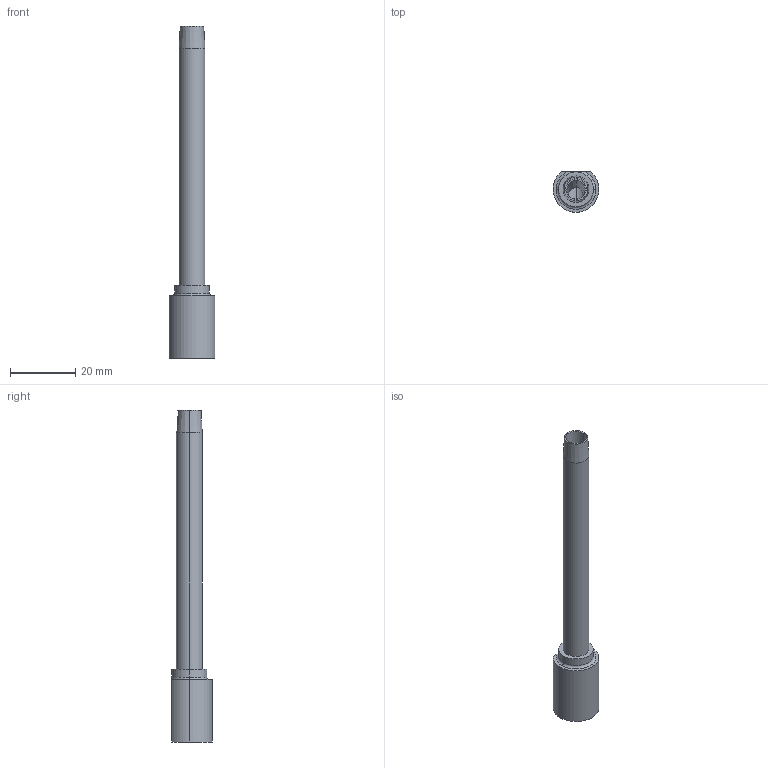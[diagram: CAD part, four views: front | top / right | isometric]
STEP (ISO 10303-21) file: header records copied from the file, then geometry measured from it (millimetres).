
FILE_DESCRIPTION (( 'STEP AP203' ), '1' );
FILE_NAME ('HKEE1616L4.step', '2020-08-19T06:08:10', ( 'Microsoft Corporation' ), ( 'MS' ), 'SwSTEP 2.0', 'SolidWorks 2018', '' );
FILE_SCHEMA (( 'CONFIG_CONTROL_DESIGN' ));
Length unit declared in the file: inch
Products named in the file (1): HKEE1616L4
Bounding box: 14.02 x 12.42 x 101.6 mm (x, y, z)
Volume: 3787.8 mm3; surface area: 5115 mm2
Topology: 1 solids, 1 shells, 36 faces, 87 edges, 55 vertices
Faces by surface type: plane 14, cylinder 11, cone 9, torus 2
Entity records: 1222 total; most frequent: CARTESIAN_POINT 292, DIRECTION 185, ORIENTED_EDGE 170, EDGE_CURVE 85, AXIS2_PLACEMENT_3D 72, VERTEX_POINT 55, EDGE_LOOP 42, LINE 41
